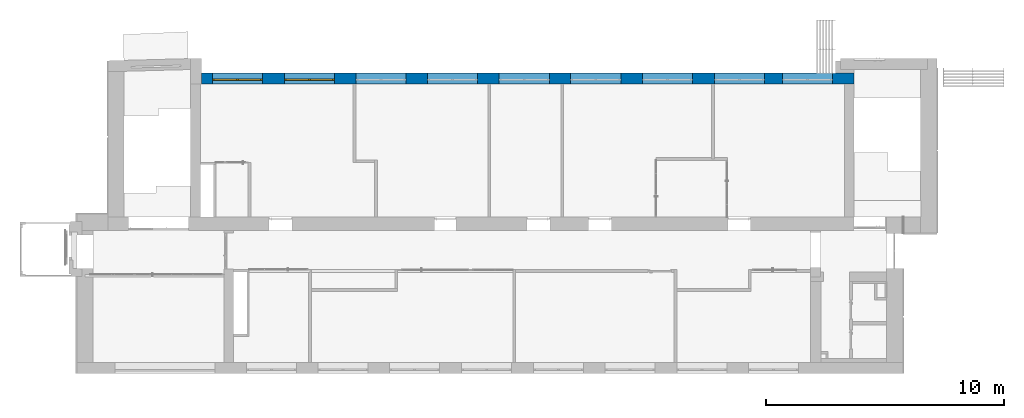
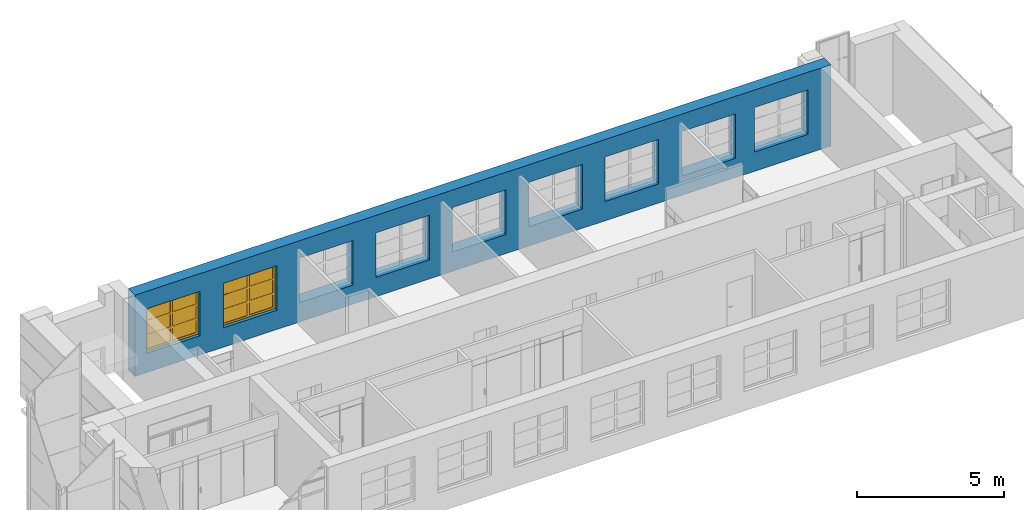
# One storey, part 51 of 66: 2 windows, 1 wall, 9 openings.
"""IFC2X3 building model written with IfcOpenShell, lengths in millimetres."""

from ifc_helpers import new_model, entity, si_unit, converted_unit, derived_unit, direction, frame, frame_2d, origin, origin_2d_with_axis, place, context, subcontext, project, spatial, rectangle, extrude, face_set, surface_model, source, transform, mapped, material, material_list, layer, layer_set, layer_usage, type_object, type_shapes, element, fill, save


model = new_model("IFC2X3")

# Units and contexts
model_context = context("Model", 3, precision=0.01, world=origin(), true_north=direction((6.12303176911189e-17, 1.0)))
body_context = subcontext(model_context, "Body", "Model", "MODEL_VIEW")
ifc_project = project(units=[si_unit("LENGTHUNIT", "METRE", prefix="MILLI"), si_unit("AREAUNIT", "SQUARE_METRE"), si_unit("VOLUMEUNIT", "CUBIC_METRE"), converted_unit("PLANEANGLEUNIT", "DEGREE", entity("IfcRatioMeasure", 0.0174532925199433), si_unit("PLANEANGLEUNIT", "RADIAN"), dimensions=[0, 0, 0, 0, 0, 0, 0]), si_unit("MASSUNIT", "GRAM", prefix="KILO"), derived_unit("MASSDENSITYUNIT", [(si_unit("MASSUNIT", "GRAM", prefix="KILO"), 1), (si_unit("LENGTHUNIT", "METRE"), -3)]), si_unit("TIMEUNIT", "SECOND"), si_unit("FREQUENCYUNIT", "HERTZ"), si_unit("THERMODYNAMICTEMPERATUREUNIT", "DEGREE_CELSIUS"), derived_unit("THERMALTRANSMITTANCEUNIT", [(si_unit("MASSUNIT", "GRAM", prefix="KILO"), 1), (si_unit("THERMODYNAMICTEMPERATUREUNIT", "KELVIN"), -1), (si_unit("TIMEUNIT", "SECOND"), -3)]), derived_unit("VOLUMETRICFLOWRATEUNIT", [(si_unit("LENGTHUNIT", "METRE"), 3), (si_unit("TIMEUNIT", "SECOND"), -1)]), si_unit("ELECTRICCURRENTUNIT", "AMPERE"), si_unit("ELECTRICVOLTAGEUNIT", "VOLT"), si_unit("POWERUNIT", "WATT"), si_unit("FORCEUNIT", "NEWTON", prefix="KILO"), si_unit("ILLUMINANCEUNIT", "LUX"), si_unit("LUMINOUSFLUXUNIT", "LUMEN"), si_unit("LUMINOUSINTENSITYUNIT", "CANDELA"), derived_unit("USERDEFINED", [(si_unit("MASSUNIT", "GRAM", prefix="KILO"), -1), (si_unit("LENGTHUNIT", "METRE"), -2), (si_unit("TIMEUNIT", "SECOND"), 3), (si_unit("LUMINOUSFLUXUNIT", "LUMEN"), 1)]), derived_unit("LINEARVELOCITYUNIT", [(si_unit("LENGTHUNIT", "METRE"), 1), (si_unit("TIMEUNIT", "SECOND"), -1)]), si_unit("PRESSUREUNIT", "PASCAL"), derived_unit("USERDEFINED", [(si_unit("LENGTHUNIT", "METRE"), -2), (si_unit("MASSUNIT", "GRAM", prefix="KILO"), 1), (si_unit("TIMEUNIT", "SECOND"), -2)])], contexts=[model_context])

# Site, building, storey
site_placement = place(None, frame((-151.875543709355, 2715.0, 0.0)))
site = spatial("IfcSite", under=ifc_project, at=site_placement, Name="Surface", CompositionType="ELEMENT")
building_placement = place(site_placement, origin())
building = spatial("IfcBuilding", under=site, at=building_placement, CompositionType="ELEMENT")
storey_placement = place(building_placement, frame((0.0, 0.0, 3350.0)))
storey = spatial("IfcBuildingStorey", under=building, at=storey_placement, Name="2 korrus", CompositionType="ELEMENT", Elevation=3350.00000000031)

# Wall, openings, windows
ifc_material_1 = material(Name="Brick, Common")
ifc_layer_1 = layer(ifc_material_1, 440.0)
ifc_material_2 = material(Name="__Kips GN13_tava")
ifc_layer_2 = layer(ifc_material_2, 20.0)
ifc_layer_set = layer_set([ifc_layer_1, ifc_layer_2], Name="Basic Wall:VS-1")
ifc_layer_usage = layer_usage(ifc_layer_set, "AXIS2", "POSITIVE", -230.0)
wall_type = type_object("IfcWallType", Name="Basic Wall:VS-1", PredefinedType="STANDARD", material=ifc_layer_set)
wall_placement = place(storey_placement, frame((32372.6162682, 12380.0, 0.0), z_axis=(0.0, 0.0, 1.0), x_axis=(-1.0, 0.0, 0.0)))
wall = element("IfcWallStandardCase", 1, at=wall_placement, inside=storey, type_object=wall_type, material=ifc_layer_usage, Name="SEIN - 005", ObjectType="Basic Wall:VS-1", context=body_context, shape_type="SweptSolid", body=[
    extrude(rectangle(XDim=27372.5418693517, YDim=459.999999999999, at=frame_2d((13686.2709346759, 0.0), x_axis=(-1.0, 0.0))), origin(), (0.0, 0.0, 1.0), 3380.43203354),
])
opening_1_placement = place(wall_placement, frame((32372.6162682, 12380.0, 0.0), z_axis=(0.0, 0.0, 1.0), x_axis=(-1.0, 0.0, 0.0)))
opening_1 = element("IfcOpeningElement", 2, at=opening_1_placement, cuts=wall, Name="SEIN - 005", ObjectType="Opening", context=body_context, shape_type="SweptSolid", body=[
    extrude(rectangle(XDim=1850.0, YDim=2100.0, at=frame_2d((0.0, -5.6843418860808e-13), x_axis=(1.0, 0.0))), frame((6512.84935535, 13077.9, 1725.0), z_axis=(0.0, -1.0, 0.0), x_axis=(0.0, 0.0, 1.0)), (0.0, 0.0, 1.0), 1393.8),
])
opening_2_placement = place(wall_placement, frame((32372.6162682, 12380.0, 0.0), z_axis=(0.0, 0.0, 1.0), x_axis=(-1.0, 0.0, 0.0)))
opening_2 = element("IfcOpeningElement", 3, at=opening_2_placement, cuts=wall, Name="SEIN - 005", ObjectType="Opening", context=body_context, shape_type="SweptSolid", body=[
    extrude(rectangle(XDim=1850.0, YDim=2100.0, at=frame_2d((0.0, -1.02318153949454e-12), x_axis=(1.0, 0.0))), frame((9532.84935535, 13077.9, 1725.0), z_axis=(0.0, -1.0, 0.0), x_axis=(0.0, 0.0, 1.0)), (0.0, 0.0, 1.0), 1393.8),
])
opening_3_placement = place(wall_placement, frame((32372.6162682, 12380.0, 0.0), z_axis=(0.0, 0.0, 1.0), x_axis=(-1.0, 0.0, 0.0)))
element("IfcOpeningElement", 4, at=opening_3_placement, cuts=wall, Name="SEIN - 005", ObjectType="Opening", context=body_context, shape_type="SweptSolid", body=[
    extrude(rectangle(XDim=1850.0, YDim=2100.0, at=origin_2d_with_axis()), frame((12532.84935535, 13077.9, 1725.0), z_axis=(0.0, -1.0, 0.0), x_axis=(0.0, 0.0, 1.0)), (0.0, 0.0, 1.0), 1393.8),
])
opening_4_placement = place(wall_placement, frame((32372.6162682, 12380.0, 0.0), z_axis=(0.0, 0.0, 1.0), x_axis=(-1.0, 0.0, 0.0)))
element("IfcOpeningElement", 5, at=opening_4_placement, cuts=wall, Name="SEIN - 005", ObjectType="Opening", context=body_context, shape_type="SweptSolid", body=[
    extrude(rectangle(XDim=1850.0, YDim=2100.0, at=origin_2d_with_axis()), frame((15532.84935531, 13077.9, 1725.0), z_axis=(0.0, -1.0, 0.0), x_axis=(0.0, 0.0, 1.0)), (0.0, 0.0, 1.0), 1393.8),
])
opening_5_placement = place(wall_placement, frame((32372.6162682, 12380.0, 0.0), z_axis=(0.0, 0.0, 1.0), x_axis=(-1.0, 0.0, 0.0)))
element("IfcOpeningElement", 6, at=opening_5_placement, cuts=wall, Name="SEIN - 005", ObjectType="Opening", context=body_context, shape_type="SweptSolid", body=[
    extrude(rectangle(XDim=1850.0, YDim=2100.0, at=origin_2d_with_axis()), frame((18542.84935531, 13077.9, 1725.0), z_axis=(0.0, -1.0, 0.0), x_axis=(0.0, 0.0, 1.0)), (0.0, 0.0, 1.0), 1393.8),
])
opening_6_placement = place(wall_placement, frame((32372.6162682, 12380.0, 0.0), z_axis=(0.0, 0.0, 1.0), x_axis=(-1.0, 0.0, 0.0)))
element("IfcOpeningElement", 7, at=opening_6_placement, cuts=wall, Name="SEIN - 005", ObjectType="Opening", context=body_context, shape_type="SweptSolid", body=[
    extrude(rectangle(XDim=1850.0, YDim=2100.0, at=origin_2d_with_axis()), frame((21543.05309771, 13077.9, 1725.0), z_axis=(0.0, -1.0, 0.0), x_axis=(0.0, 0.0, 1.0)), (0.0, 0.0, 1.0), 1393.8),
])
opening_7_placement = place(wall_placement, frame((32372.6162682, 12380.0, 0.0), z_axis=(0.0, 0.0, 1.0), x_axis=(-1.0, 0.0, 0.0)))
element("IfcOpeningElement", 8, at=opening_7_placement, cuts=wall, Name="SEIN - 005", ObjectType="Opening", context=body_context, shape_type="SweptSolid", body=[
    extrude(rectangle(XDim=1850.0, YDim=2100.0, at=origin_2d_with_axis()), frame((24543.05309771, 13077.9, 1725.0), z_axis=(0.0, -1.0, 0.0), x_axis=(0.0, 0.0, 1.0)), (0.0, 0.0, 1.0), 1393.8),
])
opening_8_placement = place(wall_placement, frame((32372.6162682, 12380.0, 0.0), z_axis=(0.0, 0.0, 1.0), x_axis=(-1.0, 0.0, 0.0)))
element("IfcOpeningElement", 9, at=opening_8_placement, cuts=wall, Name="SEIN - 005", ObjectType="Opening", context=body_context, shape_type="SweptSolid", body=[
    extrude(rectangle(XDim=1850.0, YDim=2100.0, at=frame_2d((0.0, 4.32009983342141e-12), x_axis=(1.0, 0.0))), frame((27563.05309771, 13077.9, 1725.0), z_axis=(0.0, -1.0, 0.0), x_axis=(0.0, 0.0, 1.0)), (0.0, 0.0, 1.0), 1393.8),
])
opening_9_placement = place(wall_placement, frame((32372.6162682, 12380.0, 0.0), z_axis=(0.0, 0.0, 1.0), x_axis=(-1.0, 0.0, 0.0)))
element("IfcOpeningElement", 10, at=opening_9_placement, cuts=wall, Name="SEIN - 005", ObjectType="Opening", context=body_context, shape_type="SweptSolid", body=[
    extrude(rectangle(XDim=1850.0, YDim=2100.0, at=origin_2d_with_axis()), frame((30412.57293081, 13077.9, 1725.0), z_axis=(0.0, -1.0, 0.0), x_axis=(0.0, 0.0, 1.0)), (0.0, 0.0, 1.0), 1393.8),
])
ifc_material_3 = material(Name="Paint - Titanium White")
ifc_material_4 = material(Name="Paint - Dark Gray")
ifc_material_5 = material(Name="Glass - Clear Fast")
ifc_material_list_1 = material_list([ifc_material_3, ifc_material_4, ifc_material_5])
ifc_material_list_2 = material_list([ifc_material_3, ifc_material_4, ifc_material_5])
window_style = type_object("IfcWindowStyle", Name="Aken_1850x2100", ConstructionType="NOTDEFINED", OperationType="DOUBLE_PANEL_VERTICAL", ParameterTakesPrecedence=False, Sizeable=False, material=ifc_material_list_2)
shared_shape = source(origin(), body_context, "Body", "SurfaceModel", [
    surface_model("IfcFaceBasedSurfaceModel", [(80.0, -665.9, 1770.0), (80.0, -620.9, 1770.0), (0.0, -620.9, 1770.0), (0.0, -665.9, 1770.0), (80.0, -665.9, 80.0), (80.0, -620.9, 80.0), (80.0, -620.9, 1770.0), (80.0, -665.9, 1770.0), (80.0, -620.9, 1770.0), (80.0, -620.9, 80.0), (0.0, -620.9, 80.0), (0.0, -620.9, 1770.0), (0.0, -665.9, 1770.0), (0.0, -620.9, 1770.0), (0.0, -620.9, 80.0), (0.0, -665.9, 80.0), (80.0, -665.9, 1770.0), (0.0, -665.9, 1770.0), (0.0, -665.9, 80.0), (80.0, -665.9, 80.0), (0.0, -665.9, 80.0), (0.0, -620.9, 80.0), (80.0, -620.9, 80.0), (80.0, -665.9, 80.0), (2020.0, -665.9, 80.0), (2020.0, -620.9, 80.0), (2100.0, -620.9, 80.0), (2100.0, -665.9, 80.0), (2020.0, -665.9, 1770.0), (2020.0, -620.9, 1770.0), (2020.0, -620.9, 80.0), (2020.0, -665.9, 80.0), (2020.0, -620.9, 80.0), (2020.0, -620.9, 1770.0), (2100.0, -620.9, 1770.0), (2100.0, -620.9, 80.0), (2100.0, -665.9, 80.0), (2100.0, -620.9, 80.0), (2100.0, -620.9, 1770.0), (2100.0, -665.9, 1770.0), (2020.0, -665.9, 80.0), (2100.0, -665.9, 80.0), (2100.0, -665.9, 1770.0), (2020.0, -665.9, 1770.0), (2100.0, -665.9, 1770.0), (2100.0, -620.9, 1770.0), (2020.0, -620.9, 1770.0), (2020.0, -665.9, 1770.0), (1010.0, -665.9, 80.0), (1010.0, -620.9, 80.0), (1090.0, -620.9, 80.0), (1090.0, -665.9, 80.0), (1010.0, -665.9, 1770.0), (1010.0, -620.9, 1770.0), (1010.0, -620.9, 80.0), (1010.0, -665.9, 80.0), (1010.0, -620.9, 80.0), (1010.0, -620.9, 1770.0), (1090.0, -620.9, 1770.0), (1090.0, -620.9, 80.0), (1090.0, -665.9, 80.0), (1090.0, -620.9, 80.0), (1090.0, -620.9, 1770.0), (1090.0, -665.9, 1770.0), (1010.0, -665.9, 80.0), (1090.0, -665.9, 80.0), (1090.0, -665.9, 1770.0), (1010.0, -665.9, 1770.0), (1090.0, -665.9, 1770.0), (1090.0, -620.9, 1770.0), (1010.0, -620.9, 1770.0), (1010.0, -665.9, 1770.0), (80.0, -665.9, 80.0), (80.0, -620.9, 80.0), (0.0, -620.9, 80.0), (0.0, -665.9, 80.0), (1010.0, -665.9, 80.0), (1010.0, -620.9, 80.0), (80.0, -620.9, 80.0), (80.0, -665.9, 80.0), (80.0, -620.9, 80.0), (1010.0, -620.9, 80.0), (1090.0, -620.9, 80.0), (2020.0, -620.9, 80.0), (2100.0, -620.9, 80.0), (2100.0, -620.9, 0.0), (0.0, -620.9, 0.0), (0.0, -620.9, 80.0), (0.0, -665.9, 80.0), (0.0, -620.9, 80.0), (0.0, -620.9, 0.0), (0.0, -665.9, 0.0), (80.0, -665.9, 80.0), (0.0, -665.9, 80.0), (0.0, -665.9, 0.0), (2100.0, -665.9, 0.0), (2100.0, -665.9, 80.0), (2020.0, -665.9, 80.0), (1090.0, -665.9, 80.0), (1010.0, -665.9, 80.0), (1090.0, -665.9, 80.0), (1090.0, -620.9, 80.0), (1010.0, -620.9, 80.0), (1010.0, -665.9, 80.0), (2020.0, -665.9, 80.0), (2020.0, -620.9, 80.0), (1090.0, -620.9, 80.0), (1090.0, -665.9, 80.0), (2100.0, -665.9, 80.0), (2100.0, -620.9, 80.0), (2020.0, -620.9, 80.0), (2020.0, -665.9, 80.0), (2100.0, -665.9, 0.0), (2100.0, -620.9, 0.0), (2100.0, -620.9, 80.0), (2100.0, -665.9, 80.0), (0.0, -665.9, 0.0), (0.0, -620.9, 0.0), (2100.0, -620.9, 0.0), (2100.0, -665.9, 0.0), (1010.0, -665.9, 1770.0), (1010.0, -620.9, 1770.0), (1090.0, -620.9, 1770.0), (1090.0, -665.9, 1770.0), (80.0, -665.9, 1770.0), (80.0, -620.9, 1770.0), (1010.0, -620.9, 1770.0), (1010.0, -665.9, 1770.0), (1010.0, -620.9, 1770.0), (80.0, -620.9, 1770.0), (0.0, -620.9, 1770.0), (0.0, -620.9, 1850.0), (2100.0, -620.9, 1850.0), (2100.0, -620.9, 1770.0), (2020.0, -620.9, 1770.0), (1090.0, -620.9, 1770.0), (1090.0, -665.9, 1770.0), (1090.0, -620.9, 1770.0), (2020.0, -620.9, 1770.0), (2020.0, -665.9, 1770.0), (1010.0, -665.9, 1770.0), (1090.0, -665.9, 1770.0), (2020.0, -665.9, 1770.0), (2100.0, -665.9, 1770.0), (2100.0, -665.9, 1850.0), (0.0, -665.9, 1850.0), (0.0, -665.9, 1770.0), (80.0, -665.9, 1770.0), (0.0, -665.9, 1770.0), (0.0, -620.9, 1770.0), (80.0, -620.9, 1770.0), (80.0, -665.9, 1770.0), (0.0, -665.9, 1850.0), (0.0, -620.9, 1850.0), (0.0, -620.9, 1770.0), (0.0, -665.9, 1770.0), (2100.0, -665.9, 1850.0), (2100.0, -620.9, 1850.0), (0.0, -620.9, 1850.0), (0.0, -665.9, 1850.0), (2100.0, -665.9, 1770.0), (2100.0, -620.9, 1770.0), (2100.0, -620.9, 1850.0), (2100.0, -665.9, 1850.0), (2020.0, -665.9, 1770.0), (2020.0, -620.9, 1770.0), (2100.0, -620.9, 1770.0), (2100.0, -665.9, 1770.0), (80.0, -640.9, 590.0), (80.0, -630.9, 590.0), (1010.0, -630.9, 590.0), (1010.0, -640.9, 590.0), (80.0, -640.9, 670.0), (80.0, -630.9, 670.0), (80.0, -630.9, 590.0), (80.0, -640.9, 590.0), (80.0, -630.9, 590.0), (80.0, -630.9, 670.0), (1010.0, -630.9, 670.0), (1010.0, -630.9, 590.0), (1010.0, -640.9, 590.0), (1010.0, -630.9, 590.0), (1010.0, -630.9, 670.0), (1010.0, -640.9, 670.0), (80.0, -640.9, 590.0), (1010.0, -640.9, 590.0), (1010.0, -640.9, 670.0), (80.0, -640.9, 670.0), (1010.0, -640.9, 670.0), (1010.0, -630.9, 670.0), (80.0, -630.9, 670.0), (80.0, -640.9, 670.0), (80.0, -640.9, 1180.0), (80.0, -630.9, 1180.0), (1010.0, -630.9, 1180.0), (1010.0, -640.9, 1180.0), (80.0, -640.9, 1260.0), (80.0, -630.9, 1260.0), (80.0, -630.9, 1180.0), (80.0, -640.9, 1180.0), (80.0, -630.9, 1180.0), (80.0, -630.9, 1260.0), (1010.0, -630.9, 1260.0), (1010.0, -630.9, 1180.0), (1010.0, -640.9, 1180.0), (1010.0, -630.9, 1180.0), (1010.0, -630.9, 1260.0), (1010.0, -640.9, 1260.0), (80.0, -640.9, 1180.0), (1010.0, -640.9, 1180.0), (1010.0, -640.9, 1260.0), (80.0, -640.9, 1260.0), (1010.0, -640.9, 1260.0), (1010.0, -630.9, 1260.0), (80.0, -630.9, 1260.0), (80.0, -640.9, 1260.0), (1090.0, -640.9, 590.0), (1090.0, -630.9, 590.0), (2020.0, -630.9, 590.0), (2020.0, -640.9, 590.0), (1090.0, -640.9, 670.0), (1090.0, -630.9, 670.0), (1090.0, -630.9, 590.0), (1090.0, -640.9, 590.0), (1090.0, -630.9, 590.0), (1090.0, -630.9, 670.0), (2020.0, -630.9, 670.0), (2020.0, -630.9, 590.0), (2020.0, -640.9, 590.0), (2020.0, -630.9, 590.0), (2020.0, -630.9, 670.0), (2020.0, -640.9, 670.0), (1090.0, -640.9, 590.0), (2020.0, -640.9, 590.0), (2020.0, -640.9, 670.0), (1090.0, -640.9, 670.0), (2020.0, -640.9, 670.0), (2020.0, -630.9, 670.0), (1090.0, -630.9, 670.0), (1090.0, -640.9, 670.0), (1090.0, -640.9, 1180.0), (1090.0, -630.9, 1180.0), (2020.0, -630.9, 1180.0), (2020.0, -640.9, 1180.0), (1090.0, -640.9, 1260.0), (1090.0, -630.9, 1260.0), (1090.0, -630.9, 1180.0), (1090.0, -640.9, 1180.0), (1090.0, -630.9, 1180.0), (1090.0, -630.9, 1260.0), (2020.0, -630.9, 1260.0), (2020.0, -630.9, 1180.0), (2020.0, -640.9, 1180.0), (2020.0, -630.9, 1180.0), (2020.0, -630.9, 1260.0), (2020.0, -640.9, 1260.0), (1090.0, -640.9, 1180.0), (2020.0, -640.9, 1180.0), (2020.0, -640.9, 1260.0), (1090.0, -640.9, 1260.0), (2020.0, -640.9, 1260.0), (2020.0, -630.9, 1260.0), (1090.0, -630.9, 1260.0), (1090.0, -640.9, 1260.0)], [face_set([[[0, 1, 2, 3]]]), face_set([[[4, 5, 6, 7]]]), face_set([[[8, 9, 10, 11]]]), face_set([[[12, 13, 14, 15]]]), face_set([[[16, 17, 18, 19]]]), face_set([[[20, 21, 22, 23]]]), face_set([[[24, 25, 26, 27]]]), face_set([[[28, 29, 30, 31]]]), face_set([[[32, 33, 34, 35]]]), face_set([[[36, 37, 38, 39]]]), face_set([[[40, 41, 42, 43]]]), face_set([[[44, 45, 46, 47]]]), face_set([[[48, 49, 50, 51]]]), face_set([[[52, 53, 54, 55]]]), face_set([[[56, 57, 58, 59]]]), face_set([[[60, 61, 62, 63]]]), face_set([[[64, 65, 66, 67]]]), face_set([[[68, 69, 70, 71]]]), face_set([[[72, 73, 74, 75]]]), face_set([[[76, 77, 78, 79]]]), face_set([[[80, 81, 82, 83, 84, 85, 86, 87]]]), face_set([[[88, 89, 90, 91]]]), face_set([[[92, 93, 94, 95, 96, 97, 98, 99]]]), face_set([[[100, 101, 102, 103]]]), face_set([[[104, 105, 106, 107]]]), face_set([[[108, 109, 110, 111]]]), face_set([[[112, 113, 114, 115]]]), face_set([[[116, 117, 118, 119]]]), face_set([[[120, 121, 122, 123]]]), face_set([[[124, 125, 126, 127]]]), face_set([[[128, 129, 130, 131, 132, 133, 134, 135]]]), face_set([[[136, 137, 138, 139]]]), face_set([[[140, 141, 142, 143, 144, 145, 146, 147]]]), face_set([[[148, 149, 150, 151]]]), face_set([[[152, 153, 154, 155]]]), face_set([[[156, 157, 158, 159]]]), face_set([[[160, 161, 162, 163]]]), face_set([[[164, 165, 166, 167]]]), face_set([[[168, 169, 170, 171]]]), face_set([[[172, 173, 174, 175]]]), face_set([[[176, 177, 178, 179]]]), face_set([[[180, 181, 182, 183]]]), face_set([[[184, 185, 186, 187]]]), face_set([[[188, 189, 190, 191]]]), face_set([[[192, 193, 194, 195]]]), face_set([[[196, 197, 198, 199]]]), face_set([[[200, 201, 202, 203]]]), face_set([[[204, 205, 206, 207]]]), face_set([[[208, 209, 210, 211]]]), face_set([[[212, 213, 214, 215]]]), face_set([[[216, 217, 218, 219]]]), face_set([[[220, 221, 222, 223]]]), face_set([[[224, 225, 226, 227]]]), face_set([[[228, 229, 230, 231]]]), face_set([[[232, 233, 234, 235]]]), face_set([[[236, 237, 238, 239]]]), face_set([[[240, 241, 242, 243]]]), face_set([[[244, 245, 246, 247]]]), face_set([[[248, 249, 250, 251]]]), face_set([[[252, 253, 254, 255]]]), face_set([[[256, 257, 258, 259]]]), face_set([[[260, 261, 262, 263]]])]),
    surface_model("IfcFaceBasedSurfaceModel", [(80.0, -620.9, 1770.0), (80.0, -595.9, 1770.0), (0.0, -595.9, 1770.0), (0.0, -620.9, 1770.0), (80.0, -620.9, 80.0), (80.0, -595.9, 80.0), (80.0, -595.9, 1770.0), (80.0, -620.9, 1770.0), (80.0, -595.9, 1770.0), (80.0, -595.9, 80.0), (0.0, -595.9, 80.0), (0.0, -595.9, 1770.0), (0.0, -620.9, 1770.0), (0.0, -595.9, 1770.0), (0.0, -595.9, 80.0), (0.0, -620.9, 80.0), (80.0, -620.9, 1770.0), (0.0, -620.9, 1770.0), (0.0, -620.9, 80.0), (80.0, -620.9, 80.0), (0.0, -620.9, 80.0), (0.0, -595.9, 80.0), (80.0, -595.9, 80.0), (80.0, -620.9, 80.0), (2020.0, -620.9, 80.0), (2020.0, -595.9, 80.0), (2100.0, -595.9, 80.0), (2100.0, -620.9, 80.0), (2020.0, -620.9, 1770.0), (2020.0, -595.9, 1770.0), (2020.0, -595.9, 80.0), (2020.0, -620.9, 80.0), (2020.0, -595.9, 80.0), (2020.0, -595.9, 1770.0), (2100.0, -595.9, 1770.0), (2100.0, -595.9, 80.0), (2100.0, -620.9, 80.0), (2100.0, -595.9, 80.0), (2100.0, -595.9, 1770.0), (2100.0, -620.9, 1770.0), (2020.0, -620.9, 80.0), (2100.0, -620.9, 80.0), (2100.0, -620.9, 1770.0), (2020.0, -620.9, 1770.0), (2100.0, -620.9, 1770.0), (2100.0, -595.9, 1770.0), (2020.0, -595.9, 1770.0), (2020.0, -620.9, 1770.0), (1010.0, -620.9, 80.0), (1010.0, -595.9, 80.0), (1090.0, -595.9, 80.0), (1090.0, -620.9, 80.0), (1010.0, -620.9, 1770.0), (1010.0, -595.9, 1770.0), (1010.0, -595.9, 80.0), (1010.0, -620.9, 80.0), (1010.0, -595.9, 80.0), (1010.0, -595.9, 1770.0), (1090.0, -595.9, 1770.0), (1090.0, -595.9, 80.0), (1090.0, -620.9, 80.0), (1090.0, -595.9, 80.0), (1090.0, -595.9, 1770.0), (1090.0, -620.9, 1770.0), (1010.0, -620.9, 80.0), (1090.0, -620.9, 80.0), (1090.0, -620.9, 1770.0), (1010.0, -620.9, 1770.0), (1090.0, -620.9, 1770.0), (1090.0, -595.9, 1770.0), (1010.0, -595.9, 1770.0), (1010.0, -620.9, 1770.0), (80.0, -620.9, 80.0), (80.0, -595.9, 80.0), (0.0, -595.9, 80.0), (0.0, -620.9, 80.0), (1010.0, -620.9, 80.0), (1010.0, -595.9, 80.0), (80.0, -595.9, 80.0), (80.0, -620.9, 80.0), (80.0, -595.9, 80.0), (1010.0, -595.9, 80.0), (1090.0, -595.9, 80.0), (2020.0, -595.9, 80.0), (2100.0, -595.9, 80.0), (2100.0, -595.9, 0.0), (0.0, -595.9, 0.0), (0.0, -595.9, 80.0), (0.0, -620.9, 80.0), (0.0, -595.9, 80.0), (0.0, -595.9, 0.0), (0.0, -620.9, 0.0), (80.0, -620.9, 80.0), (0.0, -620.9, 80.0), (0.0, -620.9, 0.0), (2100.0, -620.9, 0.0), (2100.0, -620.9, 80.0), (2020.0, -620.9, 80.0), (1090.0, -620.9, 80.0), (1010.0, -620.9, 80.0), (1090.0, -620.9, 80.0), (1090.0, -595.9, 80.0), (1010.0, -595.9, 80.0), (1010.0, -620.9, 80.0), (2020.0, -620.9, 80.0), (2020.0, -595.9, 80.0), (1090.0, -595.9, 80.0), (1090.0, -620.9, 80.0), (2100.0, -620.9, 80.0), (2100.0, -595.9, 80.0), (2020.0, -595.9, 80.0), (2020.0, -620.9, 80.0), (2100.0, -620.9, 0.0), (2100.0, -595.9, 0.0), (2100.0, -595.9, 80.0), (2100.0, -620.9, 80.0), (0.0, -620.9, 0.0), (0.0, -595.9, 0.0), (2100.0, -595.9, 0.0), (2100.0, -620.9, 0.0), (1010.0, -620.9, 1770.0), (1010.0, -595.9, 1770.0), (1090.0, -595.9, 1770.0), (1090.0, -620.9, 1770.0), (80.0, -620.9, 1770.0), (80.0, -595.9, 1770.0), (1010.0, -595.9, 1770.0), (1010.0, -620.9, 1770.0), (1010.0, -595.9, 1770.0), (80.0, -595.9, 1770.0), (0.0, -595.9, 1770.0), (0.0, -595.9, 1850.0), (2100.0, -595.9, 1850.0), (2100.0, -595.9, 1770.0), (2020.0, -595.9, 1770.0), (1090.0, -595.9, 1770.0), (1090.0, -620.9, 1770.0), (1090.0, -595.9, 1770.0), (2020.0, -595.9, 1770.0), (2020.0, -620.9, 1770.0), (1010.0, -620.9, 1770.0), (1090.0, -620.9, 1770.0), (2020.0, -620.9, 1770.0), (2100.0, -620.9, 1770.0), (2100.0, -620.9, 1850.0), (0.0, -620.9, 1850.0), (0.0, -620.9, 1770.0), (80.0, -620.9, 1770.0), (0.0, -620.9, 1770.0), (0.0, -595.9, 1770.0), (80.0, -595.9, 1770.0), (80.0, -620.9, 1770.0), (0.0, -620.9, 1850.0), (0.0, -595.9, 1850.0), (0.0, -595.9, 1770.0), (0.0, -620.9, 1770.0), (2100.0, -620.9, 1850.0), (2100.0, -595.9, 1850.0), (0.0, -595.9, 1850.0), (0.0, -620.9, 1850.0), (2100.0, -620.9, 1770.0), (2100.0, -595.9, 1770.0), (2100.0, -595.9, 1850.0), (2100.0, -620.9, 1850.0), (2020.0, -620.9, 1770.0), (2020.0, -595.9, 1770.0), (2100.0, -595.9, 1770.0), (2100.0, -620.9, 1770.0), (80.0, -630.9, 590.0), (80.0, -600.9, 590.0), (1010.0, -600.9, 590.0), (1010.0, -630.9, 590.0), (80.0, -630.9, 670.0), (80.0, -600.9, 670.0), (80.0, -600.9, 590.0), (80.0, -630.9, 590.0), (80.0, -600.9, 590.0), (80.0, -600.9, 670.0), (1010.0, -600.9, 670.0), (1010.0, -600.9, 590.0), (1010.0, -630.9, 590.0), (1010.0, -600.9, 590.0), (1010.0, -600.9, 670.0), (1010.0, -630.9, 670.0), (80.0, -630.9, 590.0), (1010.0, -630.9, 590.0), (1010.0, -630.9, 670.0), (80.0, -630.9, 670.0), (1010.0, -630.9, 670.0), (1010.0, -600.9, 670.0), (80.0, -600.9, 670.0), (80.0, -630.9, 670.0), (80.0, -630.9, 1180.0), (80.0, -600.9, 1180.0), (1010.0, -600.9, 1180.0), (1010.0, -630.9, 1180.0), (80.0, -630.9, 1260.0), (80.0, -600.9, 1260.0), (80.0, -600.9, 1180.0), (80.0, -630.9, 1180.0), (80.0, -600.9, 1180.0), (80.0, -600.9, 1260.0), (1010.0, -600.9, 1260.0), (1010.0, -600.9, 1180.0), (1010.0, -630.9, 1180.0), (1010.0, -600.9, 1180.0), (1010.0, -600.9, 1260.0), (1010.0, -630.9, 1260.0), (80.0, -630.9, 1180.0), (1010.0, -630.9, 1180.0), (1010.0, -630.9, 1260.0), (80.0, -630.9, 1260.0), (1010.0, -630.9, 1260.0), (1010.0, -600.9, 1260.0), (80.0, -600.9, 1260.0), (80.0, -630.9, 1260.0), (1090.0, -630.9, 590.0), (1090.0, -600.9, 590.0), (2020.0, -600.9, 590.0), (2020.0, -630.9, 590.0), (1090.0, -630.9, 670.0), (1090.0, -600.9, 670.0), (1090.0, -600.9, 590.0), (1090.0, -630.9, 590.0), (1090.0, -600.9, 590.0), (1090.0, -600.9, 670.0), (2020.0, -600.9, 670.0), (2020.0, -600.9, 590.0), (2020.0, -630.9, 590.0), (2020.0, -600.9, 590.0), (2020.0, -600.9, 670.0), (2020.0, -630.9, 670.0), (1090.0, -630.9, 590.0), (2020.0, -630.9, 590.0), (2020.0, -630.9, 670.0), (1090.0, -630.9, 670.0), (2020.0, -630.9, 670.0), (2020.0, -600.9, 670.0), (1090.0, -600.9, 670.0), (1090.0, -630.9, 670.0), (1090.0, -630.9, 1180.0), (1090.0, -600.9, 1180.0), (2020.0, -600.9, 1180.0), (2020.0, -630.9, 1180.0), (1090.0, -630.9, 1260.0), (1090.0, -600.9, 1260.0), (1090.0, -600.9, 1180.0), (1090.0, -630.9, 1180.0), (1090.0, -600.9, 1180.0), (1090.0, -600.9, 1260.0), (2020.0, -600.9, 1260.0), (2020.0, -600.9, 1180.0), (2020.0, -630.9, 1180.0), (2020.0, -600.9, 1180.0), (2020.0, -600.9, 1260.0), (2020.0, -630.9, 1260.0), (1090.0, -630.9, 1180.0), (2020.0, -630.9, 1180.0), (2020.0, -630.9, 1260.0), (1090.0, -630.9, 1260.0), (2020.0, -630.9, 1260.0), (2020.0, -600.9, 1260.0), (1090.0, -600.9, 1260.0), (1090.0, -630.9, 1260.0)], [face_set([[[0, 1, 2, 3]]]), face_set([[[4, 5, 6, 7]]]), face_set([[[8, 9, 10, 11]]]), face_set([[[12, 13, 14, 15]]]), face_set([[[16, 17, 18, 19]]]), face_set([[[20, 21, 22, 23]]]), face_set([[[24, 25, 26, 27]]]), face_set([[[28, 29, 30, 31]]]), face_set([[[32, 33, 34, 35]]]), face_set([[[36, 37, 38, 39]]]), face_set([[[40, 41, 42, 43]]]), face_set([[[44, 45, 46, 47]]]), face_set([[[48, 49, 50, 51]]]), face_set([[[52, 53, 54, 55]]]), face_set([[[56, 57, 58, 59]]]), face_set([[[60, 61, 62, 63]]]), face_set([[[64, 65, 66, 67]]]), face_set([[[68, 69, 70, 71]]]), face_set([[[72, 73, 74, 75]]]), face_set([[[76, 77, 78, 79]]]), face_set([[[80, 81, 82, 83, 84, 85, 86, 87]]]), face_set([[[88, 89, 90, 91]]]), face_set([[[92, 93, 94, 95, 96, 97, 98, 99]]]), face_set([[[100, 101, 102, 103]]]), face_set([[[104, 105, 106, 107]]]), face_set([[[108, 109, 110, 111]]]), face_set([[[112, 113, 114, 115]]]), face_set([[[116, 117, 118, 119]]]), face_set([[[120, 121, 122, 123]]]), face_set([[[124, 125, 126, 127]]]), face_set([[[128, 129, 130, 131, 132, 133, 134, 135]]]), face_set([[[136, 137, 138, 139]]]), face_set([[[140, 141, 142, 143, 144, 145, 146, 147]]]), face_set([[[148, 149, 150, 151]]]), face_set([[[152, 153, 154, 155]]]), face_set([[[156, 157, 158, 159]]]), face_set([[[160, 161, 162, 163]]]), face_set([[[164, 165, 166, 167]]]), face_set([[[168, 169, 170, 171]]]), face_set([[[172, 173, 174, 175]]]), face_set([[[176, 177, 178, 179]]]), face_set([[[180, 181, 182, 183]]]), face_set([[[184, 185, 186, 187]]]), face_set([[[188, 189, 190, 191]]]), face_set([[[192, 193, 194, 195]]]), face_set([[[196, 197, 198, 199]]]), face_set([[[200, 201, 202, 203]]]), face_set([[[204, 205, 206, 207]]]), face_set([[[208, 209, 210, 211]]]), face_set([[[212, 213, 214, 215]]]), face_set([[[216, 217, 218, 219]]]), face_set([[[220, 221, 222, 223]]]), face_set([[[224, 225, 226, 227]]]), face_set([[[228, 229, 230, 231]]]), face_set([[[232, 233, 234, 235]]]), face_set([[[236, 237, 238, 239]]]), face_set([[[240, 241, 242, 243]]]), face_set([[[244, 245, 246, 247]]]), face_set([[[248, 249, 250, 251]]]), face_set([[[252, 253, 254, 255]]]), face_set([[[256, 257, 258, 259]]]), face_set([[[260, 261, 262, 263]]])]),
    surface_model("IfcFaceBasedSurfaceModel", [(1010.0, -630.9, 80.0), (1010.0, -630.9, 590.0), (80.0, -630.9, 590.0), (80.0, -630.9, 80.0), (1010.0, -610.9, 80.0), (80.0, -610.9, 80.0), (80.0, -610.9, 590.0), (1010.0, -610.9, 590.0), (1010.0, -630.9, 670.0), (1010.0, -630.9, 1180.0), (80.0, -630.9, 1180.0), (80.0, -630.9, 670.0), (1010.0, -610.9, 670.0), (80.0, -610.9, 670.0), (80.0, -610.9, 1180.0), (1010.0, -610.9, 1180.0), (1010.0, -630.9, 1260.0), (1010.0, -630.9, 1770.0), (80.0, -630.9, 1770.0), (80.0, -630.9, 1260.0), (1010.0, -610.9, 1260.0), (80.0, -610.9, 1260.0), (80.0, -610.9, 1770.0), (1010.0, -610.9, 1770.0), (2020.0, -630.9, 80.0), (2020.0, -630.9, 590.0), (1090.0, -630.9, 590.0), (1090.0, -630.9, 80.0), (2020.0, -610.9, 80.0), (1090.0, -610.9, 80.0), (1090.0, -610.9, 590.0), (2020.0, -610.9, 590.0), (2020.0, -630.9, 670.0), (2020.0, -630.9, 1180.0), (1090.0, -630.9, 1180.0), (1090.0, -630.9, 670.0), (2020.0, -610.9, 670.0), (1090.0, -610.9, 670.0), (1090.0, -610.9, 1180.0), (2020.0, -610.9, 1180.0), (2020.0, -630.9, 1260.0), (2020.0, -630.9, 1770.0), (1090.0, -630.9, 1770.0), (1090.0, -630.9, 1260.0), (2020.0, -610.9, 1260.0), (1090.0, -610.9, 1260.0), (1090.0, -610.9, 1770.0), (2020.0, -610.9, 1770.0)], [face_set([[[0, 1, 2, 3]]]), face_set([[[4, 5, 6, 7]]]), face_set([[[8, 9, 10, 11]]]), face_set([[[12, 13, 14, 15]]]), face_set([[[16, 17, 18, 19]]]), face_set([[[20, 21, 22, 23]]]), face_set([[[24, 25, 26, 27]]]), face_set([[[28, 29, 30, 31]]]), face_set([[[32, 33, 34, 35]]]), face_set([[[36, 37, 38, 39]]]), face_set([[[40, 41, 42, 43]]]), face_set([[[44, 45, 46, 47]]])]),
])
type_shapes(window_style, [shared_shape])
window_1_placement = place(opening_1_placement, frame((7562.84935535, 11684.1, 800.0), z_axis=(0.0, 0.0, 1.0), x_axis=(-1.0, 0.0, 0.0)))
window_1 = element("IfcWindow", 11, at=window_1_placement, inside=storey, type_object=window_style, material=ifc_material_list_1, Name="Aken_1850x2100:Aken_1850x2100", ObjectType="Aken_1850x2100", OverallHeight=2100.0, OverallWidth=1850.0, context=body_context, shape_type="MappedRepresentation", body=[
    mapped(shared_shape, transform((0.0, 0.0, 0.0), scale=1.0)),
])
fill(opening_1, window_1)
ifc_material_list_3 = material_list([ifc_material_3, ifc_material_4, ifc_material_5])
window_2_placement = place(opening_2_placement, frame((10582.84935535, 11684.1, 800.0), z_axis=(0.0, 0.0, 1.0), x_axis=(-1.0, 0.0, 0.0)))
window_2 = element("IfcWindow", 12, at=window_2_placement, inside=storey, type_object=window_style, material=ifc_material_list_3, Name="Aken_1850x2100:Aken_1850x2100", ObjectType="Aken_1850x2100", OverallHeight=2100.0, OverallWidth=1850.0, context=body_context, shape_type="MappedRepresentation", body=[
    mapped(shared_shape, transform((0.0, 0.0, 0.0), scale=1.0)),
])
fill(opening_2, window_2)

save(model, "model.ifc")
